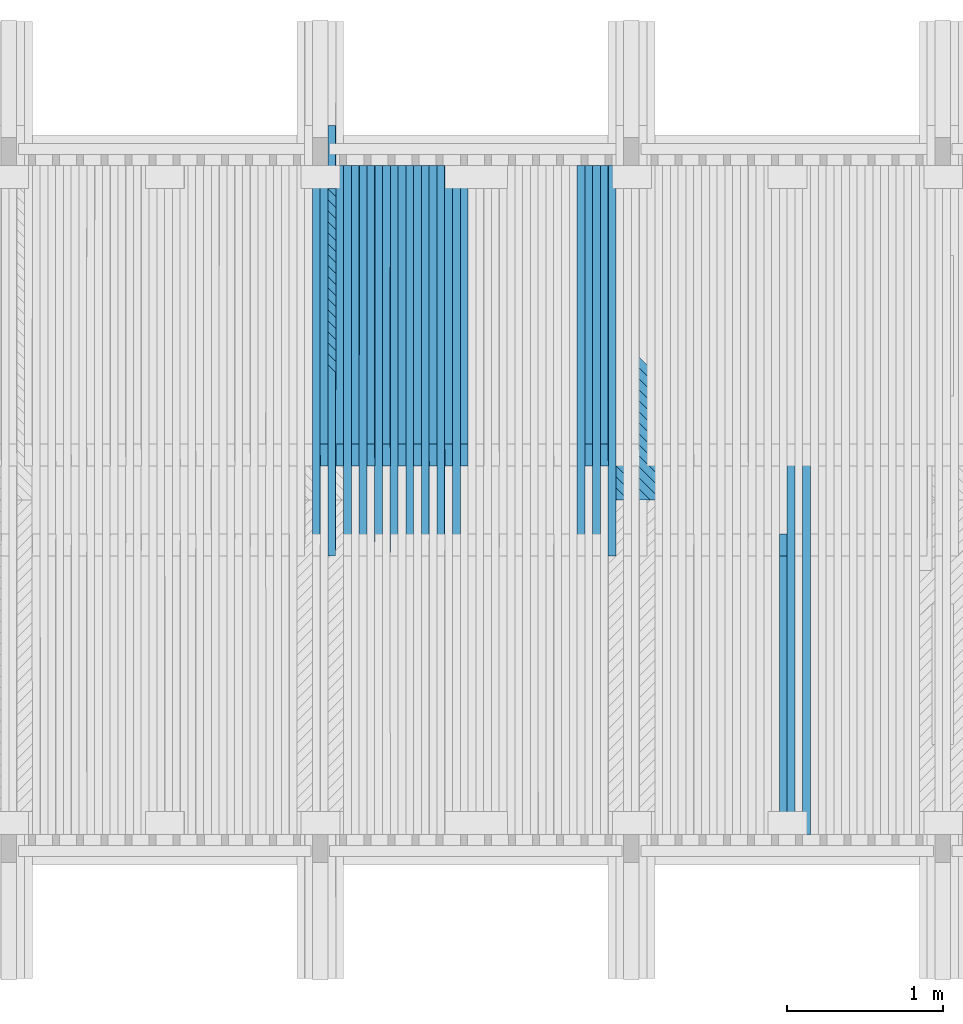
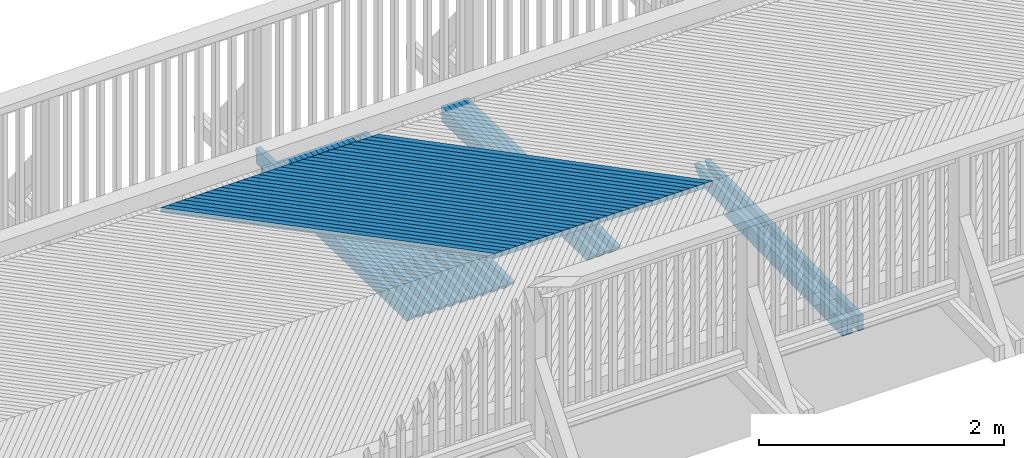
# One storey, part 25 of 53: 57 beams.
"""IFC2X3 building model written with IfcOpenShell, lengths in millimetres."""

from ifc_helpers import new_model, si_unit, frame, origin_with_axes, place, context, subcontext, project, spatial, faceted_brep, material, type_object, element, save


model = new_model("IFC2X3")

# Units and contexts
model_context = context("Model", 3, precision=1e-05, world=origin_with_axes())
body_context = subcontext(model_context, "Body", "Model", "MODEL_VIEW")
ifc_project = project(units=[si_unit("LENGTHUNIT", "METRE", prefix="MILLI"), si_unit("AREAUNIT", "SQUARE_METRE"), si_unit("VOLUMEUNIT", "CUBIC_METRE"), si_unit("MASSUNIT", "GRAM", prefix="KILO"), si_unit("TIMEUNIT", "SECOND"), si_unit("PLANEANGLEUNIT", "RADIAN"), si_unit("SOLIDANGLEUNIT", "STERADIAN"), si_unit("THERMODYNAMICTEMPERATUREUNIT", "DEGREE_CELSIUS"), si_unit("LUMINOUSINTENSITYUNIT", "LUMEN")], contexts=[model_context])

# Site, building, storey
site_placement = place(None, origin_with_axes())
site = spatial("IfcSite", under=ifc_project, at=site_placement, Name="Undefined", CompositionType="ELEMENT")
building_placement = place(site_placement, origin_with_axes())
building = spatial("IfcBuilding", under=site, at=building_placement, Name="Undefined", CompositionType="ELEMENT")
storey_placement = place(building_placement, origin_with_axes())
storey = spatial("IfcBuildingStorey", under=building, at=storey_placement, Name="Undefined", CompositionType="ELEMENT", Elevation=0.0)

# Beams
ifc_material = material(Name="TIMBER/Timber_Undefined")
beam_type_1 = type_object("IfcBeamType", Name="50*50", PredefinedType="NOTDEFINED")
for number, where, z_axis, x_axis, name in (
    (1, (6933.49514567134, 42365.4998996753, 3235.17752037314), (0.707136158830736, 0.706981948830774, -0.0116179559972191), (-0.707068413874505, 0.706948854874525, -0.016660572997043), "BEAM"),
    (2, (6862.77103065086, 42365.4998996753, 3235.04809435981), (0.707137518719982, 0.706981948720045, -0.0115348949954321), (-0.707066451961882, 0.706948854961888, -0.0167436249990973), "BEAM"),
    (3, (6792.04693132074, 42365.4998996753, 3234.91036104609), (0.707138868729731, 0.706981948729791, -0.0114518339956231), (-0.70706448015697, 0.706948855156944, -0.0168266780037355), "BEAM"),
    (4, (6721.32284865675, 42365.4998996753, 3234.76432043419), (0.707140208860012, 0.706981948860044, -0.0113687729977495), (-0.707062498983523, 0.706948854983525, -0.016909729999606), "BEAM"),
    (5, (6650.59878363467, 42365.4998996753, 3234.60997252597), (0.707141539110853, 0.706981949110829, -0.011285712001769), (-0.707060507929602, 0.706948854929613, -0.0169927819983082), "BEAM"),
    (6, (6579.8747372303, 42365.4998996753, 3234.44731732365), (0.707142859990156, 0.706981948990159, -0.0112026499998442), (-0.707058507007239, 0.706948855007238, -0.0170758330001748), "BEAM"),
    (7, (6509.1507104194, 42365.4998996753, 3234.27635482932), (0.707144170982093, 0.706981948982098, -0.0111195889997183), (-0.707056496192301, 0.706948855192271, -0.0171588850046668), "BEAM"),
    (8, (6438.42670417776, 42365.4998996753, 3234.09708504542), (0.707145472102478, 0.706981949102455, -0.0110365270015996), (-0.707054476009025, 0.706948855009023, -0.0172419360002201), "BEAM"),
    (9, (6367.70271948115, 42365.4998996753, 3233.9095079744), (0.707146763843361, 0.706981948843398, -0.0109534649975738), (-0.707052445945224, 0.706948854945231, -0.0173249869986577), "BEAM"),
    (10, (6296.97875730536, 42365.4998996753, 3233.71362361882), (0.707148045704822, 0.706981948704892, -0.0108704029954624), (-0.707050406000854, 0.706948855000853, -0.0174080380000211), "BEAM"),
    (11, (6226.25481862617, 42365.4998996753, 3233.5094319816), (0.70714931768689, 0.706981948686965, -0.0107873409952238), (-0.707048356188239, 0.706948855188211, -0.0174910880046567), "BEAM"),
    (12, (6155.53090441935, 42365.4998996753, 3233.29693306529), (0.707150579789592, 0.706981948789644, -0.0107042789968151), (-0.707046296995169, 0.706948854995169, -0.01757413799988), "BEAM"),
    (13, (6084.80701566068, 42365.4998996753, 3233.07612687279), (0.707151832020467, 0.706981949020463, -0.0106212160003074), (-0.70704422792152, 0.706948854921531, -0.0176571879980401), "BEAM"),
    (14, (6014.08315332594, 42365.4998996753, 3232.84701340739), (0.707153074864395, 0.706981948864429, -0.010538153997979), (-0.707042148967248, 0.706948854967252, -0.0177402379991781), "BEAM"),
    (15, (5943.35931839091, 42365.4998996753, 3232.6095926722), (0.707154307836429, 0.70698194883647, -0.0104550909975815), (-0.707040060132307, 0.706948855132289, -0.0178232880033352), "BEAM"),
    (16, (5872.63551183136, 42365.4998996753, 3232.36386467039), (0.707155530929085, 0.706981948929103, -0.0103720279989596), (-0.707037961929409, 0.706948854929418, -0.0179063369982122), "BEAM"),
    (17, (5801.91173462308, 42365.4998996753, 3232.10982940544), (0.707156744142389, 0.706981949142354, -0.0102889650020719), (-0.707035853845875, 0.706948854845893, -0.0179893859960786), "BEAM"),
    (18, (5731.18798774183, 42365.4998996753, 3231.84748688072), (0.707157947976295, 0.706981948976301, -0.010205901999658), (-0.707033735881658, 0.706948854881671, -0.0180724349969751), "BEAM"),
    (19, (5660.46427216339, 42365.4998996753, 3231.57683709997), (0.707159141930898, 0.706981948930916, -0.0101228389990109), (-0.707031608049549, 0.706948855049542, -0.0181554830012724), "BEAM"),
    (20, (5589.74058886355, 42365.4998996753, 3231.29788006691), (0.707160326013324, 0.706981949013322, -0.0100397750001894), (-0.707029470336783, 0.706948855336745, -0.0182385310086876), "BEAM"),
    (21, (5519.01693881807, 42365.4998996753, 3231.01061578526), (0.707161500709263, 0.706981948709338, -0.00995671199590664), (-0.707027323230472, 0.706948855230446, -0.0183215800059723), "BEAM"),
    (22, (5448.29332300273, 42365.4998996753, 3230.71504425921), (0.707162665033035, 0.706981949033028, -0.00987364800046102), (-0.707025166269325, 0.706948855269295, -0.0184046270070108), "BEAM"),
    (23, (5377.5697423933, 42365.4998996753, 3230.41116549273), (0.707163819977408, 0.706981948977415, -0.00979058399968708), (-0.707022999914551, 0.706948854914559, -0.0184876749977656), "BEAM"),
    (24, (5306.84619796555, 42365.4998996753, 3230.09897948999), (0.707164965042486, 0.706981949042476, -0.00970752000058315), (-0.707020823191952, 0.706948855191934, -0.0185707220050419), "BEAM"),
    (25, (5236.12269069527, 42365.4998996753, 3229.77848625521), (0.707166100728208, 0.70698194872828, -0.00962445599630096), (-0.707018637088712, 0.706948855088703, -0.0186537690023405), "BEAM"),
    (26, (5165.39922155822, 42365.4998996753, 3229.44968579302), (0.707167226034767, 0.706981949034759, -0.00954139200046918), (-0.707016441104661, 0.706948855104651, -0.0187368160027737), "BEAM"),
    (27, (5094.67579153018, 42365.4998996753, 3229.11257810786), (0.707168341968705, 0.706981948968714, -0.00945832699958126), (-0.707014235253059, 0.706948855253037, -0.0188198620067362), "BEAM"),
    (28, (5023.95240158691, 42365.4998996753, 3228.76716320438), (0.707169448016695, 0.706981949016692, -0.00937526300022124), (-0.70701202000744, 0.706948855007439, -0.018902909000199), "BEAM"),
    (29, (4953.22905270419, 42365.4998996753, 3228.41344108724), (0.707170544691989, 0.706981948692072, -0.00929219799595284), (-0.70700979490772, 0.706948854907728, -0.018985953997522), "BEAM"),
):
    element("IfcBeam", number, at=place(storey_placement, frame(where, z_axis=z_axis, x_axis=x_axis)), inside=storey, type_object=beam_type_1, material=ifc_material, Name=name, ObjectType="50*50", context=body_context, shape_type="Brep", body=[
        faceted_brep([(23.5869248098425, 25.0000000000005, -24.9999999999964), (-26.415415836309, 25.0000000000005, 25.0000000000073), (2802.92643296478, 25.0, 25.0), (2852.92877373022, 25.0, -25.0000000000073), (-25.001170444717, -24.9999999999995, 25.0000000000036), (2804.3406783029, -25.0, 24.9999999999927), (25.0011701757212, -24.9999999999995, -24.9999999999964), (2854.34301907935, -25.0, -25.0)], [[[0, 1, 2, 3]], [[1, 4, 5, 2]], [[4, 6, 7, 5]], [[6, 0, 3, 7]], [[5, 7, 3, 2]], [[6, 4, 1, 0]]]),
    ])
beam_type_2 = type_object("IfcBeamType", Name="150*50", PredefinedType="NOTDEFINED")
beam_1_placement = place(storey_placement, frame((7125.61109845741, 40216.5046076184, 3092.51276785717), z_axis=(-0.00145059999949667, -0.0199960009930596, 0.999799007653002), x_axis=(-2.90130000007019e-05, 0.999800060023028, 0.0199959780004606)))
element("IfcBeam", 30, at=beam_1_placement, inside=storey, type_object=beam_type_2, material=ifc_material, Name="BEAM", ObjectType="150*50", context=body_context, shape_type="Brep", body=[
    faceted_brep([(1.28420651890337e-08, -24.9999999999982, -74.9999999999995), (-1.28347892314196e-08, -24.9999999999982, 75.0), (-1.28347892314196e-08, 25.0, 75.0), (1.28420651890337e-08, 25.0000000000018, -75.0), (2375.00494422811, 25.0000000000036, -75.0), (2375.0049444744, -24.9999999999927, -74.9999999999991), (2510.5924871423, -24.9999999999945, 60.5875430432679), (2150.42514405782, -24.9999999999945, 75.0), (2150.42515052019, 25.0000000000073, 75.0), (2510.59248715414, 25.0000000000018, 60.5875433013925)], [[[0, 1, 2, 3]], [[0, 3, 4, 5]], [[1, 0, 5, 6, 7]], [[2, 1, 7, 8]], [[4, 3, 2, 8, 9]], [[5, 4, 9, 6]], [[6, 9, 8, 7]]]),
])
beam_2_placement = place(storey_placement, frame((6975.57121547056, 40216.5046076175, 3092.27828764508), z_axis=(-0.0017828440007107, -0.0199960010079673, 0.999798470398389), x_axis=(-3.56580000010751e-05, 0.999800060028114, 0.0199959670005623)))
element("IfcBeam", 31, at=beam_2_placement, inside=storey, type_object=beam_type_2, material=ifc_material, Name="BEAM", ObjectType="150*50", context=body_context, shape_type="Brep", body=[
    faceted_brep([(1.28420651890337e-08, -24.9999999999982, -74.9999999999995), (-1.28347892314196e-08, -24.9999999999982, 75.0), (-1.28347892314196e-08, 25.0, 75.0), (1.28420651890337e-08, 25.0000000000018, -75.0), (1928.42646353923, -25.0000000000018, -75.0), (1789.96936433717, -25.0000000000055, 74.9999999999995), (1789.96936408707, 24.9999999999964, 75.0000000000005), (1928.42646328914, 24.9999999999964, -74.9999999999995)], [[[0, 1, 2, 3]], [[1, 0, 4, 5]], [[2, 1, 5, 6]], [[3, 2, 6, 7]], [[0, 3, 7, 4]], [[7, 6, 5, 4]]]),
])
beam_3_placement = place(storey_placement, frame((7025.59118301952, 40216.5046076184, 3092.35917404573), z_axis=(-0.00161672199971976, -0.0199960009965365, 0.999798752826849), x_axis=(-3.23350000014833e-05, 0.999800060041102, 0.019995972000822)))
element("IfcBeam", 32, at=beam_3_placement, inside=storey, type_object=beam_type_2, material=ifc_material, Name="BEAM", ObjectType="150*50", context=body_context, shape_type="Brep", body=[
    faceted_brep([(1.28420651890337e-08, -24.9999999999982, -74.9999999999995), (-1.28347892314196e-08, -24.9999999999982, 75.0), (-1.28347892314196e-08, 25.0, 75.0), (1.28420651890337e-08, 25.0000000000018, -75.0), (2375.00494422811, 25.0000000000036, -75.0), (2375.0049444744, -24.9999999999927, -74.9999999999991), (2510.5924871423, -24.9999999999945, 60.5875430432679), (2150.42514405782, -24.9999999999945, 75.0), (2150.42515052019, 25.0000000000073, 75.0), (2510.59248715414, 25.0000000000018, 60.5875433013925)], [[[0, 1, 2, 3]], [[0, 3, 4, 5]], [[1, 0, 5, 6, 7]], [[2, 1, 7, 8]], [[4, 3, 2, 8, 9]], [[5, 4, 9, 6]], [[6, 9, 8, 7]]]),
])
for number, where, z_axis, x_axis, name in (
    (33, (5875.95475998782, 44513.4953923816, 3089.40059139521), (-0.00361070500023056, 0.0199960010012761, 0.999793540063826), (-7.22040000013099e-05, -0.999800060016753, 0.019995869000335), "BEAM"),
    (34, (5775.93537890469, 44513.4953923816, 3089.0393605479), (-0.00377630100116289, 0.0199960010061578, 0.999792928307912), (-7.55270000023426e-05, -0.999800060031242, 0.0199958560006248), "BEAM"),
):
    element("IfcBeam", number, at=place(storey_placement, frame(where, z_axis=z_axis, x_axis=x_axis)), inside=storey, type_object=beam_type_2, material=ifc_material, Name=name, ObjectType="150*50", context=body_context, shape_type="Brep", body=[
        faceted_brep([(1.28420651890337e-08, -24.9999999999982, -74.9999999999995), (1.28420651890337e-08, 25.0000000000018, -75.0), (2375.00494422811, 25.0000000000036, -75.0), (2375.0049444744, -24.9999999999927, -74.9999999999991), (-1.28347892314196e-08, -24.9999999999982, 75.0), (-1.28347892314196e-08, 25.0, 75.0), (2150.42515052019, 25.0000000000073, 75.0), (2510.59248715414, 25.0000000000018, 60.5875433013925), (2510.5924871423, -24.9999999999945, 60.5875430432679), (2150.42514405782, -24.9999999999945, 75.0)], [[[0, 1, 2, 3]], [[0, 4, 5, 1]], [[2, 1, 5, 6, 7]], [[3, 2, 7, 8]], [[4, 0, 3, 8, 9]], [[5, 4, 9, 6]], [[8, 7, 6, 9]]]),
    ])
beam_4_placement = place(storey_placement, frame((5825.95508575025, 44513.4953923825, 3089.21997974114), z_axis=(-0.00361070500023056, 0.0199960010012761, 0.999793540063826), x_axis=(-7.22040000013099e-05, -0.999800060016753, 0.019995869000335)))
element("IfcBeam", 35, at=beam_4_placement, inside=storey, type_object=beam_type_2, material=ifc_material, Name="BEAM", ObjectType="150*50", context=body_context, shape_type="Brep", body=[
    faceted_brep([(1.28420651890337e-08, -24.9999999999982, -74.9999999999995), (-1.28347892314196e-08, -24.9999999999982, 75.0), (-1.28347892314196e-08, 25.0, 75.0), (1.28420651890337e-08, 25.0000000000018, -75.0), (1928.42646328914, 24.9999999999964, -74.9999999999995), (1928.42646353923, -25.0000000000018, -75.0), (1789.96936433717, -25.0000000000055, 74.9999999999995), (1789.96936408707, 24.9999999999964, 75.0000000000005)], [[[0, 1, 2, 3]], [[0, 3, 4, 5]], [[1, 0, 5, 6]], [[2, 1, 6, 7]], [[3, 2, 7, 4]], [[4, 7, 6, 5]]]),
])
beam_5_placement = place(storey_placement, frame((5675.91605922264, 44513.4953923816, 3088.66151095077), z_axis=(-0.00394242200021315, 0.0199960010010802, 0.999792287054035), x_axis=(-7.88490000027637e-05, -0.999800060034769, 0.0199958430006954)))
element("IfcBeam", 36, at=beam_5_placement, inside=storey, type_object=beam_type_2, material=ifc_material, Name="BEAM", ObjectType="150*50", context=body_context, shape_type="Brep", body=[
    faceted_brep([(1.28420651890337e-08, -24.9999999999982, -74.9999999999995), (1.28420651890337e-08, 25.0000000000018, -75.0), (2375.00494422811, 25.0000000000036, -75.0), (2375.0049444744, -24.9999999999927, -74.9999999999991), (-1.28347892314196e-08, -24.9999999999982, 75.0), (-1.28347892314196e-08, 25.0, 75.0), (2150.42515052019, 25.0000000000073, 75.0), (2510.59248715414, 25.0000000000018, 60.5875433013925), (2510.5924871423, -24.9999999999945, 60.5875430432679), (2150.42514405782, -24.9999999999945, 75.0)], [[[0, 1, 2, 3]], [[0, 4, 5, 1]], [[2, 1, 5, 6, 7]], [[3, 2, 7, 8]], [[4, 0, 3, 8, 9]], [[5, 4, 9, 6]], [[8, 7, 6, 9]]]),
])
beam_6_placement = place(storey_placement, frame((5725.9357353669, 44513.4953923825, 3088.8504411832), z_axis=(-0.00377630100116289, 0.0199960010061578, 0.999792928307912), x_axis=(-7.55270000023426e-05, -0.999800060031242, 0.0199958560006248)))
element("IfcBeam", 37, at=beam_6_placement, inside=storey, type_object=beam_type_2, material=ifc_material, Name="BEAM", ObjectType="150*50", context=body_context, shape_type="Brep", body=[
    faceted_brep([(1.28420651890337e-08, -24.9999999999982, -74.9999999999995), (-1.28347892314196e-08, -24.9999999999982, 75.0), (-1.28347892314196e-08, 25.0, 75.0), (1.28420651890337e-08, 25.0000000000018, -75.0), (1928.42646328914, 24.9999999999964, -74.9999999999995), (1928.42646353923, -25.0000000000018, -75.0), (1789.96936433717, -25.0000000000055, 74.9999999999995), (1789.96936408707, 24.9999999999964, 75.0000000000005)], [[[0, 1, 2, 3]], [[0, 3, 4, 5]], [[1, 0, 5, 6]], [[2, 1, 6, 7]], [[3, 2, 7, 4]], [[4, 7, 6, 5]]]),
])
beam_7_placement = place(storey_placement, frame((4875.76404356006, 44513.4953923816, 3085.04044053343), z_axis=(-0.00527138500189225, 0.0199960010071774, 0.999786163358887), x_axis=(-0.000105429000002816, -0.999800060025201, 0.019995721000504)))
element("IfcBeam", 38, at=beam_7_placement, inside=storey, type_object=beam_type_2, material=ifc_material, Name="BEAM", ObjectType="150*50", context=body_context, shape_type="Brep", body=[
    faceted_brep([(1.28420651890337e-08, -24.9999999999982, -74.9999999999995), (1.28420651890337e-08, 25.0000000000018, -75.0), (2375.00494422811, 25.0000000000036, -75.0), (2375.0049444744, -24.9999999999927, -74.9999999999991), (-1.28347892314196e-08, -24.9999999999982, 75.0), (-1.28347892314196e-08, 25.0, 75.0), (2150.42515052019, 25.0000000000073, 75.0), (2510.59248715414, 25.0000000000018, 60.5875433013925), (2510.5924871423, -24.9999999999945, 60.5875430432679), (2150.42514405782, -24.9999999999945, 75.0)], [[[0, 1, 2, 3]], [[0, 4, 5, 1]], [[2, 1, 5, 6, 7]], [[3, 2, 7, 8]], [[4, 0, 3, 8, 9]], [[5, 4, 9, 6]], [[8, 7, 6, 9]]]),
])
beam_8_placement = place(storey_placement, frame((4925.78342438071, 44513.4953923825, 3085.29585887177), z_axis=(-0.00510526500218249, 0.0199960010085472, 0.999787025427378), x_axis=(-0.000102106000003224, -0.999800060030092, 0.0199957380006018)))
element("IfcBeam", 39, at=beam_8_placement, inside=storey, type_object=beam_type_2, material=ifc_material, Name="BEAM", ObjectType="150*50", context=body_context, shape_type="Brep", body=[
    faceted_brep([(1.28420651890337e-08, -24.9999999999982, -74.9999999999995), (-1.28347892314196e-08, -24.9999999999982, 75.0), (-1.28347892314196e-08, 25.0, 75.0), (1.28420651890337e-08, 25.0000000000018, -75.0), (1928.42646328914, 24.9999999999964, -74.9999999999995), (1928.42646353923, -25.0000000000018, -75.0), (1789.96936433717, -25.0000000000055, 74.9999999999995), (1789.96936408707, 24.9999999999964, 75.0000000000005)], [[[0, 1, 2, 3]], [[0, 3, 4, 5]], [[1, 0, 5, 6]], [[2, 1, 6, 7]], [[3, 2, 7, 4]], [[4, 7, 6, 5]]]),
])
beam_9_placement = place(storey_placement, frame((4775.74540074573, 44513.4953923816, 3084.51302271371), z_axis=(-0.00543750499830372, 0.0199960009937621, 0.999785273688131), x_axis=(-0.000108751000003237, -0.99980006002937, 0.0199957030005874)))
element("IfcBeam", 40, at=beam_9_placement, inside=storey, type_object=beam_type_2, material=ifc_material, Name="BEAM", ObjectType="150*50", context=body_context, shape_type="Brep", body=[
    faceted_brep([(1.28420651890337e-08, -24.9999999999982, -74.9999999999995), (1.28420651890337e-08, 25.0000000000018, -75.0), (2375.00494422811, 25.0000000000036, -75.0), (2375.0049444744, -24.9999999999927, -74.9999999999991), (-1.28347892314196e-08, -24.9999999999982, 75.0), (-1.28347892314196e-08, 25.0, 75.0), (2150.42515052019, 25.0000000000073, 75.0), (2510.59248715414, 25.0000000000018, 60.5875433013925), (2510.5924871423, -24.9999999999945, 60.5875430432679), (2150.42514405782, -24.9999999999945, 75.0)], [[[0, 1, 2, 3]], [[0, 4, 5, 1]], [[2, 1, 5, 6, 7]], [[3, 2, 7, 8]], [[4, 0, 3, 8, 9]], [[5, 4, 9, 6]], [[8, 7, 6, 9]]]),
])
beam_10_placement = place(storey_placement, frame((4825.7647384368, 44513.4953923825, 3084.77675203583), z_axis=(-0.00527138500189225, 0.0199960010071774, 0.999786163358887), x_axis=(-0.000105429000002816, -0.999800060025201, 0.019995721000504)))
element("IfcBeam", 41, at=beam_10_placement, inside=storey, type_object=beam_type_2, material=ifc_material, Name="BEAM", ObjectType="150*50", context=body_context, shape_type="Brep", body=[
    faceted_brep([(1.28420651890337e-08, -24.9999999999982, -74.9999999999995), (-1.28347892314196e-08, -24.9999999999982, 75.0), (-1.28347892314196e-08, 25.0, 75.0), (1.28420651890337e-08, 25.0000000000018, -75.0), (1928.42646328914, 24.9999999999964, -74.9999999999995), (1928.42646353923, -25.0000000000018, -75.0), (1789.96936433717, -25.0000000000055, 74.9999999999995), (1789.96936408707, 24.9999999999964, 75.0000000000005)], [[[0, 1, 2, 3]], [[0, 3, 4, 5]], [[1, 0, 5, 6]], [[2, 1, 6, 7]], [[3, 2, 7, 4]], [[4, 7, 6, 5]]]),
])
beam_11_placement = place(storey_placement, frame((4675.72684694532, 44513.4953923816, 3083.96898626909), z_axis=(-0.0056036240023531, 0.0199960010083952, 0.999784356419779), x_axis=(-0.000112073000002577, -0.999800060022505, 0.0199956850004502)))
element("IfcBeam", 42, at=beam_11_placement, inside=storey, type_object=beam_type_2, material=ifc_material, Name="BEAM", ObjectType="150*50", context=body_context, shape_type="Brep", body=[
    faceted_brep([(1.28420651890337e-08, -24.9999999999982, -74.9999999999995), (1.28420651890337e-08, 25.0000000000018, -75.0), (2375.00494422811, 25.0000000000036, -75.0), (2375.0049444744, -24.9999999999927, -74.9999999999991), (-1.28347892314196e-08, -24.9999999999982, 75.0), (-1.28347892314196e-08, 25.0, 75.0), (2150.42515052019, 25.0000000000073, 75.0), (2510.59248715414, 25.0000000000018, 60.5875433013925), (2510.5924871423, -24.9999999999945, 60.5875430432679), (2150.42514405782, -24.9999999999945, 75.0)], [[[0, 1, 2, 3]], [[0, 4, 5, 1]], [[2, 1, 5, 6, 7]], [[3, 2, 7, 8]], [[4, 0, 3, 8, 9]], [[5, 4, 9, 6]], [[8, 7, 6, 9]]]),
])
beam_12_placement = place(storey_placement, frame((4725.7461401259, 44513.4953923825, 3084.24102656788), z_axis=(-0.00543750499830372, 0.0199960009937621, 0.999785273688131), x_axis=(-0.000108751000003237, -0.99980006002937, 0.0199957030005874)))
element("IfcBeam", 43, at=beam_12_placement, inside=storey, type_object=beam_type_2, material=ifc_material, Name="BEAM", ObjectType="150*50", context=body_context, shape_type="Brep", body=[
    faceted_brep([(1.28420651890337e-08, -24.9999999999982, -74.9999999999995), (-1.28347892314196e-08, -24.9999999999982, 75.0), (-1.28347892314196e-08, 25.0, 75.0), (1.28420651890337e-08, 25.0000000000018, -75.0), (1928.42646328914, 24.9999999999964, -74.9999999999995), (1928.42646353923, -25.0000000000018, -75.0), (1789.96936433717, -25.0000000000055, 74.9999999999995), (1789.96936408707, 24.9999999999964, 75.0000000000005)], [[[0, 1, 2, 3]], [[0, 3, 4, 5]], [[1, 0, 5, 6]], [[2, 1, 6, 7]], [[3, 2, 7, 4]], [[4, 7, 6, 5]]]),
])
beam_13_placement = place(storey_placement, frame((4575.70838492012, 44513.4953923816, 3083.40833121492), z_axis=(-0.00576974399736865, 0.0199960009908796, 0.999783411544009), x_axis=(-0.00011539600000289, -0.999800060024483, 0.0199956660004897)))
element("IfcBeam", 44, at=beam_13_placement, inside=storey, type_object=beam_type_2, material=ifc_material, Name="BEAM", ObjectType="150*50", context=body_context, shape_type="Brep", body=[
    faceted_brep([(1.28420651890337e-08, -24.9999999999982, -74.9999999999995), (1.28420651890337e-08, 25.0000000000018, -75.0), (2375.00494422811, 25.0000000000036, -75.0), (2375.0049444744, -24.9999999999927, -74.9999999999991), (-1.28347892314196e-08, -24.9999999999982, 75.0), (-1.28347892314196e-08, 25.0, 75.0), (2150.42515052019, 25.0000000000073, 75.0), (2510.59248715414, 25.0000000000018, 60.5875433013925), (2510.5924871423, -24.9999999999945, 60.5875430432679), (2150.42514405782, -24.9999999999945, 75.0)], [[[0, 1, 2, 3]], [[0, 4, 5, 1]], [[2, 1, 5, 6, 7]], [[3, 2, 7, 8]], [[4, 0, 3, 8, 9]], [[5, 4, 9, 6]], [[8, 7, 6, 9]]]),
])
beam_14_placement = place(storey_placement, frame((4625.72763220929, 44513.4953923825, 3083.68868248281), z_axis=(-0.0056036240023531, 0.0199960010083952, 0.999784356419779), x_axis=(-0.000112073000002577, -0.999800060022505, 0.0199956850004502)))
element("IfcBeam", 45, at=beam_14_placement, inside=storey, type_object=beam_type_2, material=ifc_material, Name="BEAM", ObjectType="150*50", context=body_context, shape_type="Brep", body=[
    faceted_brep([(1.28420651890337e-08, -24.9999999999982, -74.9999999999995), (-1.28347892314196e-08, -24.9999999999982, 75.0), (-1.28347892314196e-08, 25.0, 75.0), (1.28420651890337e-08, 25.0000000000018, -75.0), (1928.42646328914, 24.9999999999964, -74.9999999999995), (1928.42646353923, -25.0000000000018, -75.0), (1789.96936433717, -25.0000000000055, 74.9999999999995), (1789.96936408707, 24.9999999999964, 75.0000000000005)], [[[0, 1, 2, 3]], [[0, 3, 4, 5]], [[1, 0, 5, 6]], [[2, 1, 6, 7]], [[3, 2, 7, 4]], [[4, 7, 6, 5]]]),
])
beam_15_placement = place(storey_placement, frame((4475.69001743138, 44513.4953923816, 3082.83105756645), z_axis=(-0.00593586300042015, 0.0199960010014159, 0.999782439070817), x_axis=(-0.00011871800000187, -0.999800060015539, 0.0199956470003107)))
element("IfcBeam", 46, at=beam_15_placement, inside=storey, type_object=beam_type_2, material=ifc_material, Name="BEAM", ObjectType="150*50", context=body_context, shape_type="Brep", body=[
    faceted_brep([(1.28420651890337e-08, -24.9999999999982, -74.9999999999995), (1.28420651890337e-08, 25.0000000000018, -75.0), (2375.00494422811, 25.0000000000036, -75.0), (2375.0049444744, -24.9999999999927, -74.9999999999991), (-1.28347892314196e-08, -24.9999999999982, 75.0), (-1.28347892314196e-08, 25.0, 75.0), (2150.42515052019, 25.0000000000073, 75.0), (2510.59248715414, 25.0000000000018, 60.5875433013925), (2510.5924871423, -24.9999999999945, 60.5875430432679), (2150.42514405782, -24.9999999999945, 75.0)], [[[0, 1, 2, 3]], [[0, 4, 5, 1]], [[2, 1, 5, 6, 7]], [[3, 2, 7, 8]], [[4, 0, 3, 8, 9]], [[5, 4, 9, 6]], [[8, 7, 6, 9]]]),
])
beam_16_placement = place(storey_placement, frame((4525.70921744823, 44513.4953923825, 3083.11971979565), z_axis=(-0.00576974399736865, 0.0199960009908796, 0.999783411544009), x_axis=(-0.00011539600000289, -0.999800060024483, 0.0199956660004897)))
element("IfcBeam", 47, at=beam_16_placement, inside=storey, type_object=beam_type_2, material=ifc_material, Name="BEAM", ObjectType="150*50", context=body_context, shape_type="Brep", body=[
    faceted_brep([(1.28420651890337e-08, -24.9999999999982, -74.9999999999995), (-1.28347892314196e-08, -24.9999999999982, 75.0), (-1.28347892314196e-08, 25.0, 75.0), (1.28420651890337e-08, 25.0000000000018, -75.0), (1928.42646328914, 24.9999999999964, -74.9999999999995), (1928.42646353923, -25.0000000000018, -75.0), (1789.96936433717, -25.0000000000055, 74.9999999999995), (1789.96936408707, 24.9999999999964, 75.0000000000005)], [[[0, 1, 2, 3]], [[0, 3, 4, 5]], [[1, 0, 5, 6]], [[2, 1, 6, 7]], [[3, 2, 7, 4]], [[4, 7, 6, 5]]]),
])
beam_17_placement = place(storey_placement, frame((4375.67174724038, 44513.4953923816, 3082.23716533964), z_axis=(-0.00610198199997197, 0.0199960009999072, 0.999781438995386), x_axis=(-0.000122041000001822, -0.999800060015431, 0.0199956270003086)))
element("IfcBeam", 48, at=beam_17_placement, inside=storey, type_object=beam_type_2, material=ifc_material, Name="BEAM", ObjectType="150*50", context=body_context, shape_type="Brep", body=[
    faceted_brep([(1.28420651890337e-08, -24.9999999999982, -74.9999999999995), (1.28420651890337e-08, 25.0000000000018, -75.0), (2375.00494422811, 25.0000000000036, -75.0), (2375.0049444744, -24.9999999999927, -74.9999999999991), (-1.28347892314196e-08, -24.9999999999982, 75.0), (-1.28347892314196e-08, 25.0, 75.0), (2150.42515052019, 25.0000000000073, 75.0), (2510.59248715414, 25.0000000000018, 60.5875433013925), (2510.5924871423, -24.9999999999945, 60.5875430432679), (2150.42514405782, -24.9999999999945, 75.0)], [[[0, 1, 2, 3]], [[0, 4, 5, 1]], [[2, 1, 5, 6, 7]], [[3, 2, 7, 8]], [[4, 0, 3, 8, 9]], [[5, 4, 9, 6]], [[8, 7, 6, 9]]]),
])
beam_18_placement = place(storey_placement, frame((4425.690898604, 44513.4953923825, 3082.53413852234), z_axis=(-0.00593586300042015, 0.0199960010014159, 0.999782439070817), x_axis=(-0.00011871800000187, -0.999800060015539, 0.0199956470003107)))
element("IfcBeam", 49, at=beam_18_placement, inside=storey, type_object=beam_type_2, material=ifc_material, Name="BEAM", ObjectType="150*50", context=body_context, shape_type="Brep", body=[
    faceted_brep([(1.28420651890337e-08, -24.9999999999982, -74.9999999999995), (-1.28347892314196e-08, -24.9999999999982, 75.0), (-1.28347892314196e-08, 25.0, 75.0), (1.28420651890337e-08, 25.0000000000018, -75.0), (1928.42646328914, 24.9999999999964, -74.9999999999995), (1928.42646353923, -25.0000000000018, -75.0), (1789.96936433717, -25.0000000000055, 74.9999999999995), (1789.96936408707, 24.9999999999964, 75.0000000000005)], [[[0, 1, 2, 3]], [[0, 3, 4, 5]], [[1, 0, 5, 6]], [[2, 1, 6, 7]], [[3, 2, 7, 4]], [[4, 7, 6, 5]]]),
])
beam_19_placement = place(storey_placement, frame((4275.65357710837, 44513.4953923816, 3081.62665455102), z_axis=(-0.00626810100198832, 0.0199960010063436, 0.999780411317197), x_axis=(-0.000125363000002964, -0.999800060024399, 0.0199956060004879)))
element("IfcBeam", 50, at=beam_19_placement, inside=storey, type_object=beam_type_2, material=ifc_material, Name="BEAM", ObjectType="150*50", context=body_context, shape_type="Brep", body=[
    faceted_brep([(1.28420651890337e-08, -24.9999999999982, -74.9999999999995), (1.28420651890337e-08, 25.0000000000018, -75.0), (2375.00494422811, 25.0000000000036, -75.0), (2375.0049444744, -24.9999999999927, -74.9999999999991), (-1.28347892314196e-08, -24.9999999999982, 75.0), (-1.28347892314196e-08, 25.0, 75.0), (2150.42515052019, 25.0000000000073, 75.0), (2510.59248715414, 25.0000000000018, 60.5875433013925), (2510.5924871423, -24.9999999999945, 60.5875430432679), (2150.42514405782, -24.9999999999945, 75.0)], [[[0, 1, 2, 3]], [[0, 4, 5, 1]], [[2, 1, 5, 6, 7]], [[3, 2, 7, 8]], [[4, 0, 3, 8, 9]], [[5, 4, 9, 6]], [[8, 7, 6, 9]]]),
])
beam_20_placement = place(storey_placement, frame((4325.67267843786, 44513.4953923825, 3081.93193867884), z_axis=(-0.00610198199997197, 0.0199960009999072, 0.999781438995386), x_axis=(-0.000122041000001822, -0.999800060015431, 0.0199956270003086)))
element("IfcBeam", 51, at=beam_20_placement, inside=storey, type_object=beam_type_2, material=ifc_material, Name="BEAM", ObjectType="150*50", context=body_context, shape_type="Brep", body=[
    faceted_brep([(1.28420651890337e-08, -24.9999999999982, -74.9999999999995), (-1.28347892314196e-08, -24.9999999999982, 75.0), (-1.28347892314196e-08, 25.0, 75.0), (1.28420651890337e-08, 25.0000000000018, -75.0), (1928.42646328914, 24.9999999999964, -74.9999999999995), (1928.42646353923, -25.0000000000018, -75.0), (1789.96936433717, -25.0000000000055, 74.9999999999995), (1789.96936408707, 24.9999999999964, 75.0000000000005)], [[[0, 1, 2, 3]], [[0, 3, 4, 5]], [[1, 0, 5, 6]], [[2, 1, 6, 7]], [[3, 2, 7, 4]], [[4, 7, 6, 5]]]),
])
beam_21_placement = place(storey_placement, frame((4175.63550979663, 44513.4953923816, 3080.99952521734), z_axis=(-0.00643456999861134, 0.0199960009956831, 0.999779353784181), x_axis=(-0.000128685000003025, -0.999800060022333, 0.0199955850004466)))
element("IfcBeam", 52, at=beam_21_placement, inside=storey, type_object=beam_type_2, material=ifc_material, Name="BEAM", ObjectType="150*50", context=body_context, shape_type="Brep", body=[
    faceted_brep([(1.28420651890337e-08, -24.9999999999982, -74.9999999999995), (1.28420651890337e-08, 25.0000000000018, -75.0), (2375.00494422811, 25.0000000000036, -75.0), (2375.0049444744, -24.9999999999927, -74.9999999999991), (-1.28347892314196e-08, -24.9999999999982, 75.0), (-1.28347892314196e-08, 25.0, 75.0), (2150.42515052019, 25.0000000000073, 75.0), (2510.59248715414, 25.0000000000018, 60.5875433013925), (2510.5924871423, -24.9999999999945, 60.5875430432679), (2150.42514405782, -24.9999999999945, 75.0)], [[[0, 1, 2, 3]], [[0, 4, 5, 1]], [[2, 1, 5, 6, 7]], [[3, 2, 7, 8]], [[4, 0, 3, 8, 9]], [[5, 4, 9, 6]], [[8, 7, 6, 9]]]),
])
for number, where, z_axis, x_axis, name in (
    (53, (4225.65455971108, 44513.4953923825, 3081.31312028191), (-0.00626810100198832, 0.0199960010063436, 0.999780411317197), (-0.000125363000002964, -0.999800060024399, 0.0199956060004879), "BEAM"),
    (54, (4125.63654518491, 44513.4953923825, 3080.67768334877), (-0.00643456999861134, 0.0199960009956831, 0.999779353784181), (-0.000128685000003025, -0.999800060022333, 0.0199955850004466), "BEAM"),
):
    element("IfcBeam", number, at=place(storey_placement, frame(where, z_axis=z_axis, x_axis=x_axis)), inside=storey, type_object=beam_type_2, material=ifc_material, Name=name, ObjectType="150*50", context=body_context, shape_type="Brep", body=[
        faceted_brep([(1.28420651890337e-08, -24.9999999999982, -74.9999999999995), (-1.28347892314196e-08, -24.9999999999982, 75.0), (-1.28347892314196e-08, 25.0, 75.0), (1.28420651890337e-08, 25.0000000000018, -75.0), (1928.42646328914, 24.9999999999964, -74.9999999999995), (1928.42646353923, -25.0000000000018, -75.0), (1789.96936433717, -25.0000000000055, 74.9999999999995), (1789.96936408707, 24.9999999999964, 75.0000000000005)], [[[0, 1, 2, 3]], [[0, 3, 4, 5]], [[1, 0, 5, 6]], [[2, 1, 6, 7]], [[3, 2, 7, 4]], [[4, 7, 6, 5]]]),
    ])
beam_22_placement = place(storey_placement, frame((3975.59969467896, 44513.4953923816, 3079.69541098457), z_axis=(-0.00676680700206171, 0.019996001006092, 0.999777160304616), x_axis=(-0.000135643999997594, -0.999800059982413, 0.0199955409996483)))
element("IfcBeam", 55, at=beam_22_placement, inside=storey, type_object=beam_type_2, material=ifc_material, Name="BEAM", ObjectType="150*50", context=body_context, shape_type="Brep", body=[
    faceted_brep([(1.28420651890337e-08, -24.9999999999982, -74.9999999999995), (1.28420651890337e-08, 25.0000000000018, -75.0), (2375.00494422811, 25.0000000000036, -75.0), (2375.0049444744, -24.9999999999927, -74.9999999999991), (-1.28347892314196e-08, -24.9999999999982, 75.0), (-1.28347892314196e-08, 25.0, 75.0), (2150.42515052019, 25.0000000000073, 75.0), (2510.59248715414, 25.0000000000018, 60.5875433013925), (2510.5924871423, -24.9999999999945, 60.5875430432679), (2150.42514405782, -24.9999999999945, 75.0)], [[[0, 1, 2, 3]], [[0, 4, 5, 1]], [[2, 1, 5, 6, 7]], [[3, 2, 7, 8]], [[4, 0, 3, 8, 9]], [[5, 4, 9, 6]], [[8, 7, 6, 9]]]),
])
beam_23_placement = place(storey_placement, frame((4025.61863762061, 44513.4953923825, 3080.02562789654), z_axis=(-0.00660068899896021, 0.01999600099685, 0.999778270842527), x_axis=(-0.000132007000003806, -0.999800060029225, 0.0199955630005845)))
element("IfcBeam", 56, at=beam_23_placement, inside=storey, type_object=beam_type_2, material=ifc_material, Name="BEAM", ObjectType="150*50", context=body_context, shape_type="Brep", body=[
    faceted_brep([(1.28420651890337e-08, -24.9999999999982, -74.9999999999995), (-1.28347892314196e-08, -24.9999999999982, 75.0), (-1.28347892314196e-08, 25.0, 75.0), (1.28420651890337e-08, 25.0000000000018, -75.0), (1928.42646328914, 24.9999999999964, -74.9999999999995), (1928.42646353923, -25.0000000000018, -75.0), (1789.96936433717, -25.0000000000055, 74.9999999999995), (1789.96936408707, 24.9999999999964, 75.0000000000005)], [[[0, 1, 2, 3]], [[0, 3, 4, 5]], [[1, 0, 5, 6]], [[2, 1, 6, 7]], [[3, 2, 7, 4]], [[4, 7, 6, 5]]]),
])
beam_24_placement = place(storey_placement, frame((4075.44148607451, 44771.443807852, 3075.1954858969), z_axis=(-0.00660068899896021, 0.01999600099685, 0.999778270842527), x_axis=(-0.000132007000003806, -0.999800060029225, 0.0199955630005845)))
element("IfcBeam", 57, at=beam_24_placement, inside=storey, type_object=beam_type_2, material=ifc_material, Name="BEAM", ObjectType="150*50", context=body_context, shape_type="Brep", body=[
    faceted_brep([(1.28420651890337e-08, -24.9999999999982, -74.9999999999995), (1.28420651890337e-08, 25.0000000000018, -75.0), (2633.00494750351, 25.0, -75.0), (2633.00494763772, -25.0, -75.0), (-1.28347892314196e-08, -24.9999999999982, 75.0), (-1.28347892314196e-08, 25.0, 75.0), (2408.42506824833, 24.9999999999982, 75.0), (2768.59248710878, 24.9999999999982, 60.5875398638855), (2768.59248713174, -25.0, 60.5875397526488), (2408.42506549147, -25.0000000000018, 75.0000000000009)], [[[0, 1, 2, 3]], [[0, 4, 5, 1]], [[2, 1, 5, 6, 7]], [[3, 2, 7, 8]], [[4, 0, 3, 8, 9]], [[5, 4, 9, 6]], [[8, 7, 6, 9]]]),
])

save(model, "model.ifc")
